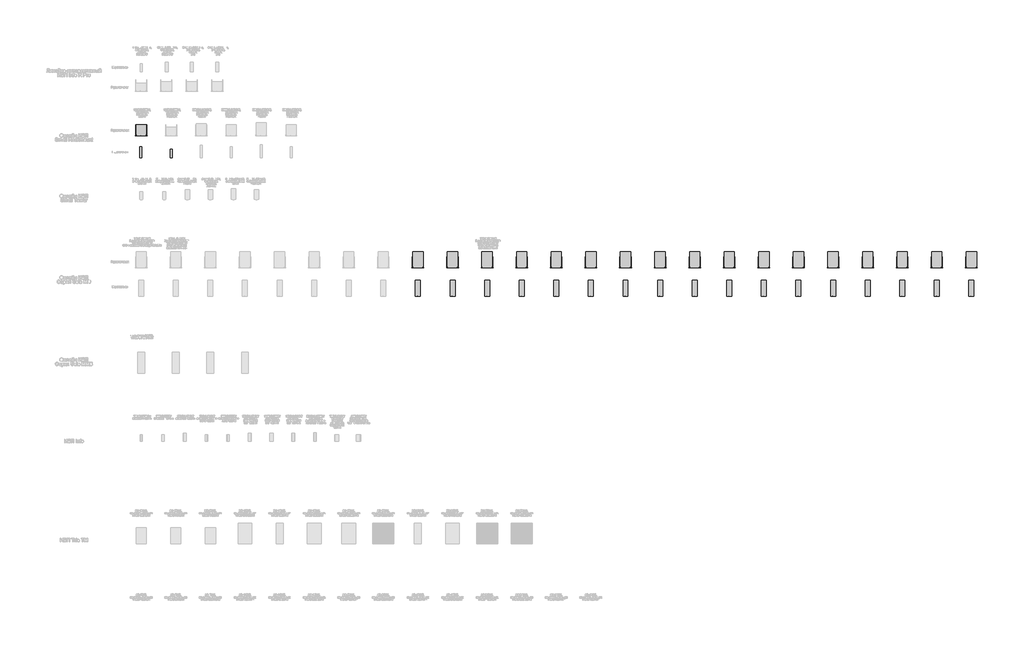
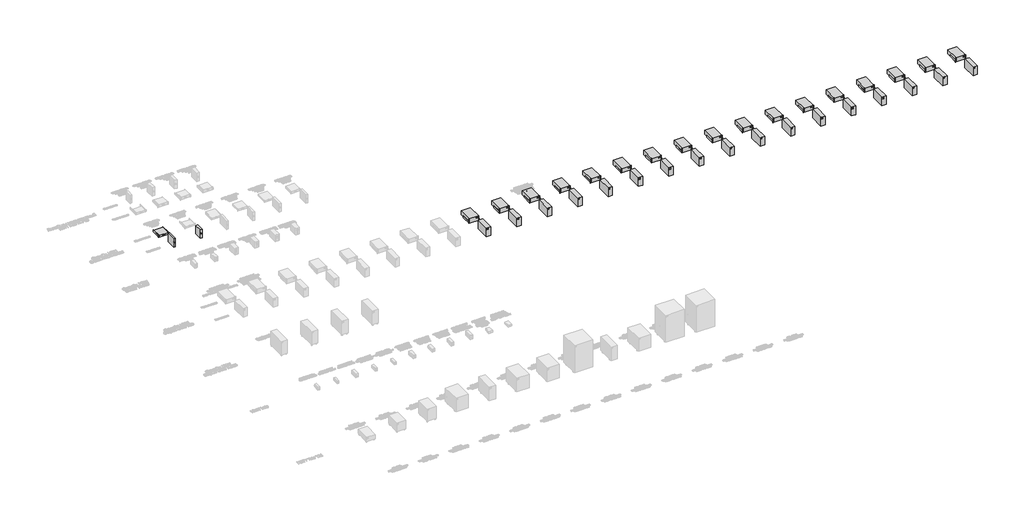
# One storey, part 3 of 74: 139 proxies.
"""IFC4 building model written with IfcOpenShell, lengths in millimetres."""

from ifc_helpers import new_model, si_unit, origin, place, context, project, spatial, transform, mapped, element, save
from components import electrical_equipment_b92da2d6, electrical_equipment_6d2ac0d9, electrical_equipment_2a145548, electrical_equipment_1890145e, electrical_equipment_2c9e7c44, electrical_equipment_71196d91, electrical_equipment_f6df29bd, electrical_equipment_acf2c5a4, as400_464786aa

model = new_model("IFC4")

# Units and contexts
model_context = context("Model", 3, world=origin())
ifc_project = project(units=[si_unit("LENGTHUNIT", "METRE", prefix="MILLI")], contexts=[model_context])

# Site, building, storey
site = spatial("IfcSite", under=ifc_project)
building = spatial("IfcBuilding", under=site)
storey = spatial("IfcBuildingStorey", under=building, Name="Этаж 01", Elevation=0.0)

# Proxies
placement = place(None, origin())
electrical_equipment_shape = electrical_equipment_b92da2d6(model_context)
element("IfcBuildingElementProxy", 1, Name="НВО_КНС_ОнлайнИБПSmallRackmount_DKC : 1000 ВА, без АКБ", ObjectType="НВО_КНС_ОнлайнИБПSmallRackmount_DKC : 1000 ВА, без АКБ", at=placement, inside=storey, context=model_context, shape_type="MappedRepresentation", body=[
    mapped(electrical_equipment_shape, transform((2652.6732678, 224.7189833, 0.0), x_axis=(1.0, 0.0, 0.0), y_axis=(0.0, 1.0, 0.0), z_axis=(0.0, 0.0, 1.0))),
])
electrical_equipment_2_shape = electrical_equipment_6d2ac0d9(model_context)
element("IfcBuildingElementProxy", 2, Name="НВО_КНС_ОнлайнИБПSmallRackmount_DKC : 1000 ВА", ObjectType="НВО_КНС_ОнлайнИБПSmallRackmount_DKC : 1000 ВА", at=placement, inside=storey, context=model_context, shape_type="MappedRepresentation", body=[
    mapped(electrical_equipment_2_shape, transform((1338.8640278, 224.7189833, 0.0), x_axis=(1.0, 0.0, 0.0), y_axis=(0.0, 1.0, 0.0), z_axis=(0.0, 0.0, 1.0))),
])
electrical_equipment_3_shape = electrical_equipment_2a145548(model_context)
element("IfcBuildingElementProxy", 3, Name="НВО_КНС_ОнлайнИБПСерияSoloMD_DKC : Solo MD 10000VA/9100W 20x9Ач", ObjectType="НВО_КНС_ОнлайнИБПСерияSoloMD_DKC : Solo MD 10000VA/9100W 20x9Ач", at=placement, inside=storey, context=model_context, shape_type="MappedRepresentation", body=[
    mapped(electrical_equipment_3_shape, transform((35852.6732678, -4545.8084587, 0.0), x_axis=(1.0, 0.0, 0.0), y_axis=(0.0, 1.0, 0.0), z_axis=(0.0, 0.0, 1.0))),
])
element("IfcBuildingElementProxy", 4, Name="НВО_КНС_ОнлайнИБПСерияSoloMD_DKC : Solo MD 10000VA/9100W 20x7Ач", ObjectType="НВО_КНС_ОнлайнИБПСерияSoloMD_DKC : Solo MD 10000VA/9100W 20x7Ач", at=placement, inside=storey, context=model_context, shape_type="MappedRepresentation", body=[
    mapped(electrical_equipment_3_shape, transform((34352.6732678, -4545.8084587, 0.0), x_axis=(1.0, 0.0, 0.0), y_axis=(0.0, 1.0, 0.0), z_axis=(0.0, 0.0, 1.0))),
])
element("IfcBuildingElementProxy", 5, Name="НВО_КНС_ОнлайнИБПСерияSoloMD_DKC : Solo MD 5000VA/4500W без АКБ", ObjectType="НВО_КНС_ОнлайнИБПСерияSoloMD_DKC : Solo MD 5000VA/4500W без АКБ", at=placement, inside=storey, context=model_context, shape_type="MappedRepresentation", body=[
    mapped(electrical_equipment_3_shape, transform((19352.6732678, -4545.8084587, 0.0), x_axis=(1.0, 0.0, 0.0), y_axis=(0.0, 1.0, 0.0), z_axis=(0.0, 0.0, 1.0))),
])
element("IfcBuildingElementProxy", 6, Name="НВО_КНС_ОнлайнИБПСерияSoloMD_DKC : Solo MD 5000VA/4500W 15x9Ач", ObjectType="НВО_КНС_ОнлайнИБПСерияSoloMD_DKC : Solo MD 5000VA/4500W 15x9Ач", at=placement, inside=storey, context=model_context, shape_type="MappedRepresentation", body=[
    mapped(electrical_equipment_3_shape, transform((17852.6732678, -4545.8084587, 0.0), x_axis=(1.0, 0.0, 0.0), y_axis=(0.0, 1.0, 0.0), z_axis=(0.0, 0.0, 1.0))),
])
element("IfcBuildingElementProxy", 7, Name="НВО_КНС_ОнлайнИБПСерияSoloMD_DKC : Solo MD 5000VA/4500W 2x15x7Ач", ObjectType="НВО_КНС_ОнлайнИБПСерияSoloMD_DKC : Solo MD 5000VA/4500W 2x15x7Ач", at=placement, inside=storey, context=model_context, shape_type="MappedRepresentation", body=[
    mapped(electrical_equipment_3_shape, transform((13352.6732678, -4545.8084587, 0.0), x_axis=(1.0, 0.0, 0.0), y_axis=(0.0, 1.0, 0.0), z_axis=(0.0, 0.0, 1.0))),
])
element("IfcBuildingElementProxy", 8, Name="НВО_КНС_ОнлайнИБПСерияSoloMD_DKC : Solo MD 5000VA/4500W 2x15x9Ач", ObjectType="НВО_КНС_ОнлайнИБПСерияSoloMD_DKC : Solo MD 5000VA/4500W 2x15x9Ач", at=placement, inside=storey, context=model_context, shape_type="MappedRepresentation", body=[
    mapped(electrical_equipment_3_shape, transform((14852.6732678, -4545.8084587, 0.0), x_axis=(1.0, 0.0, 0.0), y_axis=(0.0, 1.0, 0.0), z_axis=(0.0, 0.0, 1.0))),
])
element("IfcBuildingElementProxy", 9, Name="НВО_КНС_ОнлайнИБПСерияSoloMD_DKC : Solo MD 6000VA/5400W без АКБ", ObjectType="НВО_КНС_ОнлайнИБПСерияSoloMD_DKC : Solo MD 6000VA/5400W без АКБ", at=placement, inside=storey, context=model_context, shape_type="MappedRepresentation", body=[
    mapped(electrical_equipment_3_shape, transform((25352.6732678, -4545.8084587, 0.0), x_axis=(1.0, 0.0, 0.0), y_axis=(0.0, 1.0, 0.0), z_axis=(0.0, 0.0, 1.0))),
])
element("IfcBuildingElementProxy", 10, Name="НВО_КНС_ОнлайнИБПСерияSoloMD_DKC : Solo MD 6000VA/5400W 15x9Ач", ObjectType="НВО_КНС_ОнлайнИБПСерияSoloMD_DKC : Solo MD 6000VA/5400W 15x9Ач", at=placement, inside=storey, context=model_context, shape_type="MappedRepresentation", body=[
    mapped(electrical_equipment_3_shape, transform((23852.6732678, -4545.8084587, 0.0), x_axis=(1.0, 0.0, 0.0), y_axis=(0.0, 1.0, 0.0), z_axis=(0.0, 0.0, 1.0))),
])
element("IfcBuildingElementProxy", 11, Name="НВО_КНС_ОнлайнИБПСерияSoloMD_DKC : Solo MD 6000VA/5400W 2x15x7Ач", ObjectType="НВО_КНС_ОнлайнИБПСерияSoloMD_DKC : Solo MD 6000VA/5400W 2x15x7Ач", at=placement, inside=storey, context=model_context, shape_type="MappedRepresentation", body=[
    mapped(electrical_equipment_3_shape, transform((20852.6732678, -4545.8084587, 0.0), x_axis=(1.0, 0.0, 0.0), y_axis=(0.0, 1.0, 0.0), z_axis=(0.0, 0.0, 1.0))),
])
element("IfcBuildingElementProxy", 12, Name="НВО_КНС_ОнлайнИБПСерияSoloMD_DKC : Solo MD 6000VA/5400W 2x15x9Ач", ObjectType="НВО_КНС_ОнлайнИБПСерияSoloMD_DKC : Solo MD 6000VA/5400W 2x15x9Ач", at=placement, inside=storey, context=model_context, shape_type="MappedRepresentation", body=[
    mapped(electrical_equipment_3_shape, transform((22352.6732678, -4545.8084587, 0.0), x_axis=(1.0, 0.0, 0.0), y_axis=(0.0, 1.0, 0.0), z_axis=(0.0, 0.0, 1.0))),
])
element("IfcBuildingElementProxy", 13, Name="НВО_КНС_ОнлайнИБПСерияSoloMD_DKC : Solo MD 7000VA/6300W без АКБ", ObjectType="НВО_КНС_ОнлайнИБПСерияSoloMD_DKC : Solo MD 7000VA/6300W без АКБ", at=placement, inside=storey, context=model_context, shape_type="MappedRepresentation", body=[
    mapped(electrical_equipment_3_shape, transform((32852.6732678, -4545.8084587, 0.0), x_axis=(1.0, 0.0, 0.0), y_axis=(0.0, 1.0, 0.0), z_axis=(0.0, 0.0, 1.0))),
])
element("IfcBuildingElementProxy", 14, Name="НВО_КНС_ОнлайнИБПСерияSoloMD_DKC : Solo MD 7000VA/6300W 20x7Ач", ObjectType="НВО_КНС_ОнлайнИБПСерияSoloMD_DKC : Solo MD 7000VA/6300W 20x7Ач", at=placement, inside=storey, context=model_context, shape_type="MappedRepresentation", body=[
    mapped(electrical_equipment_3_shape, transform((29852.6732678, -4545.8084587, 0.0), x_axis=(1.0, 0.0, 0.0), y_axis=(0.0, 1.0, 0.0), z_axis=(0.0, 0.0, 1.0))),
])
element("IfcBuildingElementProxy", 15, Name="НВО_КНС_ОнлайнИБПСерияSoloMD_DKC : Solo MD 7000VA/6300W 20x9Ач", ObjectType="НВО_КНС_ОнлайнИБПСерияSoloMD_DKC : Solo MD 7000VA/6300W 20x9Ач", at=placement, inside=storey, context=model_context, shape_type="MappedRepresentation", body=[
    mapped(electrical_equipment_3_shape, transform((31352.6732678, -4545.8084587, 0.0), x_axis=(1.0, 0.0, 0.0), y_axis=(0.0, 1.0, 0.0), z_axis=(0.0, 0.0, 1.0))),
])
element("IfcBuildingElementProxy", 16, Name="НВО_КНС_ОнлайнИБПСерияSoloMD_DKC : Solo MD 7000VA/6300W 2x15x7Ач", ObjectType="НВО_КНС_ОнлайнИБПСерияSoloMD_DKC : Solo MD 7000VA/6300W 2x15x7Ач", at=placement, inside=storey, context=model_context, shape_type="MappedRepresentation", body=[
    mapped(electrical_equipment_3_shape, transform((26852.6732678, -4545.8084587, 0.0), x_axis=(1.0, 0.0, 0.0), y_axis=(0.0, 1.0, 0.0), z_axis=(0.0, 0.0, 1.0))),
])
element("IfcBuildingElementProxy", 17, Name="НВО_КНС_ОнлайнИБПСерияSoloMD_DKC : Solo MD 7000VA/6300W 15x7Ач", ObjectType="НВО_КНС_ОнлайнИБПСерияSoloMD_DKC : Solo MD 7000VA/6300W 15x7Ач", at=placement, inside=storey, context=model_context, shape_type="MappedRepresentation", body=[
    mapped(electrical_equipment_3_shape, transform((28352.6732678, -4545.8084587, 0.0), x_axis=(1.0, 0.0, 0.0), y_axis=(0.0, 1.0, 0.0), z_axis=(0.0, 0.0, 1.0))),
])
electrical_equipment_4_shape = electrical_equipment_1890145e(model_context)
element("IfcBuildingElementProxy", 18, Name="НВО_КНС_ОнлайнИБПСерияSoloMD_DKC : Solo MD 12kVA/108kW 20x9Ач", ObjectType="НВО_КНС_ОнлайнИБПСерияSoloMD_DKC : Solo MD 12kVA/108kW 20x9Ач", at=placement, inside=storey, context=model_context, shape_type="MappedRepresentation", body=[
    mapped(electrical_equipment_4_shape, transform((16352.6732678, -5790.8873535, 0.0), x_axis=(1.0, 0.0, 0.0), y_axis=(0.0, 1.0, 0.0), z_axis=(0.0, 0.0, 1.0))),
])
element("IfcBuildingElementProxy", 19, Name="НВО_КНС_ОнлайнИБПСерияSoloMD_DKC : Solo MD 5000VA/4500W 2x15x7Ач", ObjectType="НВО_КНС_ОнлайнИБПСерияSoloMD_DKC : Solo MD 5000VA/4500W 2x15x7Ач", at=placement, inside=storey, context=model_context, shape_type="MappedRepresentation", body=[
    mapped(electrical_equipment_4_shape, transform((13352.6732678, -5790.8873535, 0.0), x_axis=(1.0, 0.0, 0.0), y_axis=(0.0, 1.0, 0.0), z_axis=(0.0, 0.0, 1.0))),
])
element("IfcBuildingElementProxy", 20, Name="НВО_КНС_ОнлайнИБПСерияSoloMD_DKC : Solo MD 5000VA/4500W 2x15x9Ач", ObjectType="НВО_КНС_ОнлайнИБПСерияSoloMD_DKC : Solo MD 5000VA/4500W 2x15x9Ач", at=placement, inside=storey, context=model_context, shape_type="MappedRepresentation", body=[
    mapped(electrical_equipment_4_shape, transform((14852.6732678, -5790.8873535, 0.0), x_axis=(1.0, 0.0, 0.0), y_axis=(0.0, 1.0, 0.0), z_axis=(0.0, 0.0, 1.0))),
])
element("IfcBuildingElementProxy", 21, Name="НВО_КНС_ОнлайнИБПСерияSoloMD_DKC : Solo MD 5000VA/4500W 15x9Ач", ObjectType="НВО_КНС_ОнлайнИБПСерияSoloMD_DKC : Solo MD 5000VA/4500W 15x9Ач", at=placement, inside=storey, context=model_context, shape_type="MappedRepresentation", body=[
    mapped(electrical_equipment_4_shape, transform((17852.6732678, -5790.8873535, 0.0), x_axis=(1.0, 0.0, 0.0), y_axis=(0.0, 1.0, 0.0), z_axis=(0.0, 0.0, 1.0))),
])
element("IfcBuildingElementProxy", 22, Name="НВО_КНС_ОнлайнИБПСерияSoloMD_DKC : Solo MD 5000VA/4500W без АКБ", ObjectType="НВО_КНС_ОнлайнИБПСерияSoloMD_DKC : Solo MD 5000VA/4500W без АКБ", at=placement, inside=storey, context=model_context, shape_type="MappedRepresentation", body=[
    mapped(electrical_equipment_4_shape, transform((19352.6732678, -5790.8873535, 0.0), x_axis=(1.0, 0.0, 0.0), y_axis=(0.0, 1.0, 0.0), z_axis=(0.0, 0.0, 1.0))),
])
element("IfcBuildingElementProxy", 23, Name="НВО_КНС_ОнлайнИБПСерияSoloMD_DKC : Solo MD 6000VA/5400W 2x15x7Ач", ObjectType="НВО_КНС_ОнлайнИБПСерияSoloMD_DKC : Solo MD 6000VA/5400W 2x15x7Ач", at=placement, inside=storey, context=model_context, shape_type="MappedRepresentation", body=[
    mapped(electrical_equipment_4_shape, transform((20852.6732678, -5790.8873535, 0.0), x_axis=(1.0, 0.0, 0.0), y_axis=(0.0, 1.0, 0.0), z_axis=(0.0, 0.0, 1.0))),
])
element("IfcBuildingElementProxy", 24, Name="НВО_КНС_ОнлайнИБПСерияSoloMD_DKC : Solo MD 6000VA/5400W 2x15x9Ач", ObjectType="НВО_КНС_ОнлайнИБПСерияSoloMD_DKC : Solo MD 6000VA/5400W 2x15x9Ач", at=placement, inside=storey, context=model_context, shape_type="MappedRepresentation", body=[
    mapped(electrical_equipment_4_shape, transform((22352.6732678, -5790.8873535, 0.0), x_axis=(1.0, 0.0, 0.0), y_axis=(0.0, 1.0, 0.0), z_axis=(0.0, 0.0, 1.0))),
])
element("IfcBuildingElementProxy", 25, Name="НВО_КНС_ОнлайнИБПСерияSoloMD_DKC : Solo MD 6000VA/5400W 15x9Ач", ObjectType="НВО_КНС_ОнлайнИБПСерияSoloMD_DKC : Solo MD 6000VA/5400W 15x9Ач", at=placement, inside=storey, context=model_context, shape_type="MappedRepresentation", body=[
    mapped(electrical_equipment_4_shape, transform((23852.6732678, -5790.8873535, 0.0), x_axis=(1.0, 0.0, 0.0), y_axis=(0.0, 1.0, 0.0), z_axis=(0.0, 0.0, 1.0))),
])
element("IfcBuildingElementProxy", 26, Name="НВО_КНС_ОнлайнИБПСерияSoloMD_DKC : Solo MD 6000VA/5400W без АКБ", ObjectType="НВО_КНС_ОнлайнИБПСерияSoloMD_DKC : Solo MD 6000VA/5400W без АКБ", at=placement, inside=storey, context=model_context, shape_type="MappedRepresentation", body=[
    mapped(electrical_equipment_4_shape, transform((25352.6732678, -5790.8873535, 0.0), x_axis=(1.0, 0.0, 0.0), y_axis=(0.0, 1.0, 0.0), z_axis=(0.0, 0.0, 1.0))),
])
element("IfcBuildingElementProxy", 27, Name="НВО_КНС_ОнлайнИБПСерияSoloMD_DKC : Solo MD 7000VA/6300W 2x15x7Ач", ObjectType="НВО_КНС_ОнлайнИБПСерияSoloMD_DKC : Solo MD 7000VA/6300W 2x15x7Ач", at=placement, inside=storey, context=model_context, shape_type="MappedRepresentation", body=[
    mapped(electrical_equipment_4_shape, transform((26852.6732678, -5790.8873535, 0.0), x_axis=(1.0, 0.0, 0.0), y_axis=(0.0, 1.0, 0.0), z_axis=(0.0, 0.0, 1.0))),
])
element("IfcBuildingElementProxy", 28, Name="НВО_КНС_ОнлайнИБПСерияSoloMD_DKC : Solo MD 7000VA/6300W 15x7Ач", ObjectType="НВО_КНС_ОнлайнИБПСерияSoloMD_DKC : Solo MD 7000VA/6300W 15x7Ач", at=placement, inside=storey, context=model_context, shape_type="MappedRepresentation", body=[
    mapped(electrical_equipment_4_shape, transform((28352.6732678, -5790.8873535, 0.0), x_axis=(1.0, 0.0, 0.0), y_axis=(0.0, 1.0, 0.0), z_axis=(0.0, 0.0, 1.0))),
])
element("IfcBuildingElementProxy", 29, Name="НВО_КНС_ОнлайнИБПСерияSoloMD_DKC : Solo MD 7000VA/6300W 20x7Ач", ObjectType="НВО_КНС_ОнлайнИБПСерияSoloMD_DKC : Solo MD 7000VA/6300W 20x7Ач", at=placement, inside=storey, context=model_context, shape_type="MappedRepresentation", body=[
    mapped(electrical_equipment_4_shape, transform((29852.6732678, -5790.8873535, 0.0), x_axis=(1.0, 0.0, 0.0), y_axis=(0.0, 1.0, 0.0), z_axis=(0.0, 0.0, 1.0))),
])
element("IfcBuildingElementProxy", 30, Name="НВО_КНС_ОнлайнИБПСерияSoloMD_DKC : Solo MD 7000VA/6300W 20x9Ач", ObjectType="НВО_КНС_ОнлайнИБПСерияSoloMD_DKC : Solo MD 7000VA/6300W 20x9Ач", at=placement, inside=storey, context=model_context, shape_type="MappedRepresentation", body=[
    mapped(electrical_equipment_4_shape, transform((31352.6732678, -5790.8873535, 0.0), x_axis=(1.0, 0.0, 0.0), y_axis=(0.0, 1.0, 0.0), z_axis=(0.0, 0.0, 1.0))),
])
element("IfcBuildingElementProxy", 31, Name="НВО_КНС_ОнлайнИБПСерияSoloMD_DKC : Solo MD 7000VA/6300W без АКБ", ObjectType="НВО_КНС_ОнлайнИБПСерияSoloMD_DKC : Solo MD 7000VA/6300W без АКБ", at=placement, inside=storey, context=model_context, shape_type="MappedRepresentation", body=[
    mapped(electrical_equipment_4_shape, transform((32852.6732678, -5790.8873535, 0.0), x_axis=(1.0, 0.0, 0.0), y_axis=(0.0, 1.0, 0.0), z_axis=(0.0, 0.0, 1.0))),
])
element("IfcBuildingElementProxy", 32, Name="НВО_КНС_ОнлайнИБПСерияSoloMD_DKC : Solo MD 10000VA/9100W 20x7Ач", ObjectType="НВО_КНС_ОнлайнИБПСерияSoloMD_DKC : Solo MD 10000VA/9100W 20x7Ач", at=placement, inside=storey, context=model_context, shape_type="MappedRepresentation", body=[
    mapped(electrical_equipment_4_shape, transform((34352.6732678, -5790.8873535, 0.0), x_axis=(1.0, 0.0, 0.0), y_axis=(0.0, 1.0, 0.0), z_axis=(0.0, 0.0, 1.0))),
])
element("IfcBuildingElementProxy", 33, Name="НВО_КНС_ОнлайнИБПСерияSoloMD_DKC : Solo MD 10000VA/9100W 20x9Ач", ObjectType="НВО_КНС_ОнлайнИБПСерияSoloMD_DKC : Solo MD 10000VA/9100W 20x9Ач", at=placement, inside=storey, context=model_context, shape_type="MappedRepresentation", body=[
    mapped(electrical_equipment_4_shape, transform((35852.6732678, -5790.8873535, 0.0), x_axis=(1.0, 0.0, 0.0), y_axis=(0.0, 1.0, 0.0), z_axis=(0.0, 0.0, 1.0))),
])
element("IfcBuildingElementProxy", 34, Name="НВО_КНС_ОнлайнИБПСерияSoloMD_DKC : Solo MD 10000VA/9100W без АКБ", ObjectType="НВО_КНС_ОнлайнИБПСерияSoloMD_DKC : Solo MD 10000VA/9100W без АКБ", at=placement, inside=storey, context=model_context, shape_type="MappedRepresentation", body=[
    mapped(electrical_equipment_4_shape, transform((37352.6732678, -5790.8873535, 0.0), x_axis=(1.0, 0.0, 0.0), y_axis=(0.0, 1.0, 0.0), z_axis=(0.0, 0.0, 1.0))),
])
electrical_equipment_5_shape = electrical_equipment_2c9e7c44(model_context)
element("IfcBuildingElementProxy", 35, Name="Рельсы для ИБП RAILSMLR : RAILSMLR", ObjectType="Рельсы для ИБП RAILSMLR : RAILSMLR", at=placement, inside=storey, context=model_context, shape_type="MappedRepresentation", body=[
    mapped(electrical_equipment_5_shape, transform((1352.6732678, 1175.1905557, 0.0), x_axis=(1.0, 0.0, 0.0), y_axis=(0.0, 1.0, 0.0), z_axis=(0.0, 0.0, 1.0))),
])
element("IfcBuildingElementProxy", 36, Name="Рельсы для ИБП RAILSMLR : RAILSMLR", ObjectType="Рельсы для ИБП RAILSMLR : RAILSMLR", at=placement, inside=storey, context=model_context, shape_type="MappedRepresentation", body=[
    mapped(electrical_equipment_5_shape, transform((13352.6732678, -4543.8084587, 0.0), x_axis=(1.0, 0.0, 0.0), y_axis=(0.0, 1.0, 0.0), z_axis=(0.0, 0.0, 1.0))),
])
element("IfcBuildingElementProxy", 37, Name="Рельсы для ИБП RAILSMLR : RAILSMLR", ObjectType="Рельсы для ИБП RAILSMLR : RAILSMLR", at=placement, inside=storey, context=model_context, shape_type="MappedRepresentation", body=[
    mapped(electrical_equipment_5_shape, transform((14852.6732678, -4543.8084587, 0.0), x_axis=(1.0, 0.0, 0.0), y_axis=(0.0, 1.0, 0.0), z_axis=(0.0, 0.0, 1.0))),
])
element("IfcBuildingElementProxy", 38, Name="Рельсы для ИБП RAILSMLR : RAILSMLR", ObjectType="Рельсы для ИБП RAILSMLR : RAILSMLR", at=placement, inside=storey, context=model_context, shape_type="MappedRepresentation", body=[
    mapped(electrical_equipment_5_shape, transform((16352.6732678, -4543.8084587, 0.0), x_axis=(1.0, 0.0, 0.0), y_axis=(0.0, 1.0, 0.0), z_axis=(0.0, 0.0, 1.0))),
])
element("IfcBuildingElementProxy", 39, Name="Рельсы для ИБП RAILSMLR : RAILSMLR", ObjectType="Рельсы для ИБП RAILSMLR : RAILSMLR", at=placement, inside=storey, context=model_context, shape_type="MappedRepresentation", body=[
    mapped(electrical_equipment_5_shape, transform((17852.6732678, -4543.8084587, 0.0), x_axis=(1.0, 0.0, 0.0), y_axis=(0.0, 1.0, 0.0), z_axis=(0.0, 0.0, 1.0))),
])
element("IfcBuildingElementProxy", 40, Name="Рельсы для ИБП RAILSMLR : RAILSMLR", ObjectType="Рельсы для ИБП RAILSMLR : RAILSMLR", at=placement, inside=storey, context=model_context, shape_type="MappedRepresentation", body=[
    mapped(electrical_equipment_5_shape, transform((19352.6732678, -4543.8084587, 0.0), x_axis=(1.0, 0.0, 0.0), y_axis=(0.0, 1.0, 0.0), z_axis=(0.0, 0.0, 1.0))),
])
element("IfcBuildingElementProxy", 41, Name="Рельсы для ИБП RAILSMLR : RAILSMLR", ObjectType="Рельсы для ИБП RAILSMLR : RAILSMLR", at=placement, inside=storey, context=model_context, shape_type="MappedRepresentation", body=[
    mapped(electrical_equipment_5_shape, transform((20852.6732678, -4543.8084587, 0.0), x_axis=(1.0, 0.0, 0.0), y_axis=(0.0, 1.0, 0.0), z_axis=(0.0, 0.0, 1.0))),
])
element("IfcBuildingElementProxy", 42, Name="Рельсы для ИБП RAILSMLR : RAILSMLR", ObjectType="Рельсы для ИБП RAILSMLR : RAILSMLR", at=placement, inside=storey, context=model_context, shape_type="MappedRepresentation", body=[
    mapped(electrical_equipment_5_shape, transform((22352.6732678, -4543.8084587, 0.0), x_axis=(1.0, 0.0, 0.0), y_axis=(0.0, 1.0, 0.0), z_axis=(0.0, 0.0, 1.0))),
])
element("IfcBuildingElementProxy", 43, Name="Рельсы для ИБП RAILSMLR : RAILSMLR", ObjectType="Рельсы для ИБП RAILSMLR : RAILSMLR", at=placement, inside=storey, context=model_context, shape_type="MappedRepresentation", body=[
    mapped(electrical_equipment_5_shape, transform((23852.6732678, -4543.8084587, 0.0), x_axis=(1.0, 0.0, 0.0), y_axis=(0.0, 1.0, 0.0), z_axis=(0.0, 0.0, 1.0))),
])
element("IfcBuildingElementProxy", 44, Name="Рельсы для ИБП RAILSMLR : RAILSMLR", ObjectType="Рельсы для ИБП RAILSMLR : RAILSMLR", at=placement, inside=storey, context=model_context, shape_type="MappedRepresentation", body=[
    mapped(electrical_equipment_5_shape, transform((25352.6732678, -4543.8084587, 0.0), x_axis=(1.0, 0.0, 0.0), y_axis=(0.0, 1.0, 0.0), z_axis=(0.0, 0.0, 1.0))),
])
element("IfcBuildingElementProxy", 45, Name="Рельсы для ИБП RAILSMLR : RAILSMLR", ObjectType="Рельсы для ИБП RAILSMLR : RAILSMLR", at=placement, inside=storey, context=model_context, shape_type="MappedRepresentation", body=[
    mapped(electrical_equipment_5_shape, transform((26852.6732678, -4543.8084587, 0.0), x_axis=(1.0, 0.0, 0.0), y_axis=(0.0, 1.0, 0.0), z_axis=(0.0, 0.0, 1.0))),
])
element("IfcBuildingElementProxy", 46, Name="Рельсы для ИБП RAILSMLR : RAILSMLR", ObjectType="Рельсы для ИБП RAILSMLR : RAILSMLR", at=placement, inside=storey, context=model_context, shape_type="MappedRepresentation", body=[
    mapped(electrical_equipment_5_shape, transform((28352.6732678, -4543.8084587, 0.0), x_axis=(1.0, 0.0, 0.0), y_axis=(0.0, 1.0, 0.0), z_axis=(0.0, 0.0, 1.0))),
])
element("IfcBuildingElementProxy", 47, Name="Рельсы для ИБП RAILSMLR : RAILSMLR", ObjectType="Рельсы для ИБП RAILSMLR : RAILSMLR", at=placement, inside=storey, context=model_context, shape_type="MappedRepresentation", body=[
    mapped(electrical_equipment_5_shape, transform((29852.6732678, -4543.8084587, 0.0), x_axis=(1.0, 0.0, 0.0), y_axis=(0.0, 1.0, 0.0), z_axis=(0.0, 0.0, 1.0))),
])
element("IfcBuildingElementProxy", 48, Name="Рельсы для ИБП RAILSMLR : RAILSMLR", ObjectType="Рельсы для ИБП RAILSMLR : RAILSMLR", at=placement, inside=storey, context=model_context, shape_type="MappedRepresentation", body=[
    mapped(electrical_equipment_5_shape, transform((31352.6732678, -4543.8084587, 0.0), x_axis=(1.0, 0.0, 0.0), y_axis=(0.0, 1.0, 0.0), z_axis=(0.0, 0.0, 1.0))),
])
element("IfcBuildingElementProxy", 49, Name="Рельсы для ИБП RAILSMLR : RAILSMLR", ObjectType="Рельсы для ИБП RAILSMLR : RAILSMLR", at=placement, inside=storey, context=model_context, shape_type="MappedRepresentation", body=[
    mapped(electrical_equipment_5_shape, transform((32852.6732678, -4543.8084587, 0.0), x_axis=(1.0, 0.0, 0.0), y_axis=(0.0, 1.0, 0.0), z_axis=(0.0, 0.0, 1.0))),
])
element("IfcBuildingElementProxy", 50, Name="Рельсы для ИБП RAILSMLR : RAILSMLR", ObjectType="Рельсы для ИБП RAILSMLR : RAILSMLR", at=placement, inside=storey, context=model_context, shape_type="MappedRepresentation", body=[
    mapped(electrical_equipment_5_shape, transform((34352.6732678, -4543.8084587, 0.0), x_axis=(1.0, 0.0, 0.0), y_axis=(0.0, 1.0, 0.0), z_axis=(0.0, 0.0, 1.0))),
])
element("IfcBuildingElementProxy", 51, Name="Рельсы для ИБП RAILSMLR : RAILSMLR", ObjectType="Рельсы для ИБП RAILSMLR : RAILSMLR", at=placement, inside=storey, context=model_context, shape_type="MappedRepresentation", body=[
    mapped(electrical_equipment_5_shape, transform((35852.6732678, -4543.8084587, 0.0), x_axis=(1.0, 0.0, 0.0), y_axis=(0.0, 1.0, 0.0), z_axis=(0.0, 0.0, 1.0))),
])
element("IfcBuildingElementProxy", 52, Name="Рельсы для ИБП RAILSMLR : RAILSMLR", ObjectType="Рельсы для ИБП RAILSMLR : RAILSMLR", at=placement, inside=storey, context=model_context, shape_type="MappedRepresentation", body=[
    mapped(electrical_equipment_5_shape, transform((37352.6732678, -4543.8084587, 0.0), x_axis=(1.0, 0.0, 0.0), y_axis=(0.0, 1.0, 0.0), z_axis=(0.0, 0.0, 1.0))),
])
electrical_equipment_6_shape = electrical_equipment_71196d91(model_context)
element("IfcBuildingElementProxy", 53, Name="Внешний переключатель байпаса MBSSMLR : MBSSMLR", ObjectType="Внешний переключатель байпаса MBSSMLR : MBSSMLR", at=placement, inside=storey, context=model_context, shape_type="MappedRepresentation", body=[
    mapped(electrical_equipment_6_shape, transform((1352.6732678, 1641.1905557, 0.0), x_axis=(1.0, 0.0, 0.0), y_axis=(0.0, 1.0, 0.0), z_axis=(0.0, 0.0, 1.0))),
])
element("IfcBuildingElementProxy", 54, Name="Внешний переключатель байпаса MBSSMLR : MBSSMLR", ObjectType="Внешний переключатель байпаса MBSSMLR : MBSSMLR", at=placement, inside=storey, context=model_context, shape_type="MappedRepresentation", body=[
    mapped(electrical_equipment_6_shape, transform((1338.8640278, 692.7189833, 0.0), x_axis=(1.0, 0.0, 0.0), y_axis=(0.0, 1.0, 0.0), z_axis=(0.0, 0.0, 1.0))),
])
electrical_equipment_7_shape = electrical_equipment_f6df29bd(model_context)
element("IfcBuildingElementProxy", 55, Name="Адаптер SNMPSM2 : SNMPSM2", ObjectType="Адаптер SNMPSM2 : SNMPSM2", at=placement, inside=storey, context=model_context, shape_type="MappedRepresentation", body=[
    mapped(electrical_equipment_7_shape, transform((1352.6732678, 1641.1905557, 0.0), x_axis=(1.0, 0.0, 0.0), y_axis=(0.0, 1.0, 0.0), z_axis=(0.0, 0.0, 1.0))),
])
element("IfcBuildingElementProxy", 56, Name="Адаптер SNMPSM2 : SNMPSM2", ObjectType="Адаптер SNMPSM2 : SNMPSM2", at=placement, inside=storey, context=model_context, shape_type="MappedRepresentation", body=[
    mapped(electrical_equipment_7_shape, transform((1338.8640278, 692.7189833, 0.0), x_axis=(1.0, 0.0, 0.0), y_axis=(0.0, 1.0, 0.0), z_axis=(0.0, 0.0, 1.0))),
])
electrical_equipment_8_shape = electrical_equipment_acf2c5a4(model_context)
element("IfcBuildingElementProxy", 57, Name="НВО_КНС_ОнлайнИБПSmallRackmount_DKC : 1000 ВА", ObjectType="НВО_КНС_ОнлайнИБПSmallRackmount_DKC : 1000 ВА", at=placement, inside=storey, context=model_context, shape_type="MappedRepresentation", body=[
    mapped(electrical_equipment_8_shape, transform((1352.6732678, 1173.1905557, 0.0), x_axis=(1.0, 0.0, 0.0), y_axis=(0.0, 1.0, 0.0), z_axis=(0.0, 0.0, 1.0))),
])
element("IfcBuildingElementProxy", 58, Name="Адаптер SNMPSM2 : SNMPMMD", ObjectType="Адаптер SNMPSM2 : SNMPMMD", at=placement, inside=storey, context=model_context, shape_type="MappedRepresentation", body=[
    mapped(electrical_equipment_7_shape, transform((8852.6732678, -3845.8084587, 0.0), x_axis=(1.0, 0.0, 0.0), y_axis=(0.0, 1.0, 0.0), z_axis=(0.0, 0.0, 1.0))),
])
element("IfcBuildingElementProxy", 59, Name="Адаптер SNMPSM2 : SNMPMMD", ObjectType="Адаптер SNMPSM2 : SNMPMMD", at=placement, inside=storey, context=model_context, shape_type="MappedRepresentation", body=[
    mapped(electrical_equipment_7_shape, transform((10352.6732678, -3845.8084587, 0.0), x_axis=(1.0, 0.0, 0.0), y_axis=(0.0, 1.0, 0.0), z_axis=(0.0, 0.0, 1.0))),
])
element("IfcBuildingElementProxy", 60, Name="Адаптер SNMPSM2 : SNMPMMD", ObjectType="Адаптер SNMPSM2 : SNMPMMD", at=placement, inside=storey, context=model_context, shape_type="MappedRepresentation", body=[
    mapped(electrical_equipment_7_shape, transform((11852.6732678, -3845.8084587, 0.0), x_axis=(1.0, 0.0, 0.0), y_axis=(0.0, 1.0, 0.0), z_axis=(0.0, 0.0, 1.0))),
])
element("IfcBuildingElementProxy", 61, Name="Адаптер SNMPSM2 : SNMPMMD", ObjectType="Адаптер SNMPSM2 : SNMPMMD", at=placement, inside=storey, context=model_context, shape_type="MappedRepresentation", body=[
    mapped(electrical_equipment_7_shape, transform((13352.6732678, -3845.8084587, 0.0), x_axis=(1.0, 0.0, 0.0), y_axis=(0.0, 1.0, 0.0), z_axis=(0.0, 0.0, 1.0))),
])
element("IfcBuildingElementProxy", 62, Name="Адаптер SNMPSM2 : SNMPMMD", ObjectType="Адаптер SNMPSM2 : SNMPMMD", at=placement, inside=storey, context=model_context, shape_type="MappedRepresentation", body=[
    mapped(electrical_equipment_7_shape, transform((13352.6732678, -5090.8873535, 0.0), x_axis=(1.0, 0.0, 0.0), y_axis=(0.0, 1.0, 0.0), z_axis=(0.0, 0.0, 1.0))),
])
element("IfcBuildingElementProxy", 63, Name="Адаптер SNMPSM2 : SNMPMMD", ObjectType="Адаптер SNMPSM2 : SNMPMMD", at=placement, inside=storey, context=model_context, shape_type="MappedRepresentation", body=[
    mapped(electrical_equipment_7_shape, transform((14852.6732678, -3845.8084587, 0.0), x_axis=(1.0, 0.0, 0.0), y_axis=(0.0, 1.0, 0.0), z_axis=(0.0, 0.0, 1.0))),
])
element("IfcBuildingElementProxy", 64, Name="Адаптер SNMPSM2 : SNMPMMD", ObjectType="Адаптер SNMPSM2 : SNMPMMD", at=placement, inside=storey, context=model_context, shape_type="MappedRepresentation", body=[
    mapped(electrical_equipment_7_shape, transform((14852.6732678, -5090.8873535, 0.0), x_axis=(1.0, 0.0, 0.0), y_axis=(0.0, 1.0, 0.0), z_axis=(0.0, 0.0, 1.0))),
])
element("IfcBuildingElementProxy", 65, Name="Адаптер SNMPSM2 : SNMPMMD", ObjectType="Адаптер SNMPSM2 : SNMPMMD", at=placement, inside=storey, context=model_context, shape_type="MappedRepresentation", body=[
    mapped(electrical_equipment_7_shape, transform((16352.6732678, -3845.8084587, 0.0), x_axis=(1.0, 0.0, 0.0), y_axis=(0.0, 1.0, 0.0), z_axis=(0.0, 0.0, 1.0))),
])
element("IfcBuildingElementProxy", 66, Name="Адаптер SNMPSM2 : SNMPMMD", ObjectType="Адаптер SNMPSM2 : SNMPMMD", at=placement, inside=storey, context=model_context, shape_type="MappedRepresentation", body=[
    mapped(electrical_equipment_7_shape, transform((16352.6732678, -5090.8873535, 0.0), x_axis=(1.0, 0.0, 0.0), y_axis=(0.0, 1.0, 0.0), z_axis=(0.0, 0.0, 1.0))),
])
element("IfcBuildingElementProxy", 67, Name="Адаптер SNMPSM2 : SNMPMMD", ObjectType="Адаптер SNMPSM2 : SNMPMMD", at=placement, inside=storey, context=model_context, shape_type="MappedRepresentation", body=[
    mapped(electrical_equipment_7_shape, transform((17852.6732678, -3845.8084587, 0.0), x_axis=(1.0, 0.0, 0.0), y_axis=(0.0, 1.0, 0.0), z_axis=(0.0, 0.0, 1.0))),
])
element("IfcBuildingElementProxy", 68, Name="Адаптер SNMPSM2 : SNMPMMD", ObjectType="Адаптер SNMPSM2 : SNMPMMD", at=placement, inside=storey, context=model_context, shape_type="MappedRepresentation", body=[
    mapped(electrical_equipment_7_shape, transform((17852.6732678, -5090.8873535, 0.0), x_axis=(1.0, 0.0, 0.0), y_axis=(0.0, 1.0, 0.0), z_axis=(0.0, 0.0, 1.0))),
])
element("IfcBuildingElementProxy", 69, Name="Адаптер SNMPSM2 : SNMPMMD", ObjectType="Адаптер SNMPSM2 : SNMPMMD", at=placement, inside=storey, context=model_context, shape_type="MappedRepresentation", body=[
    mapped(electrical_equipment_7_shape, transform((19352.6732678, -3845.8084587, 0.0), x_axis=(1.0, 0.0, 0.0), y_axis=(0.0, 1.0, 0.0), z_axis=(0.0, 0.0, 1.0))),
])
element("IfcBuildingElementProxy", 70, Name="Адаптер SNMPSM2 : SNMPMMD", ObjectType="Адаптер SNMPSM2 : SNMPMMD", at=placement, inside=storey, context=model_context, shape_type="MappedRepresentation", body=[
    mapped(electrical_equipment_7_shape, transform((19352.6732678, -5090.8873535, 0.0), x_axis=(1.0, 0.0, 0.0), y_axis=(0.0, 1.0, 0.0), z_axis=(0.0, 0.0, 1.0))),
])
element("IfcBuildingElementProxy", 71, Name="Адаптер SNMPSM2 : SNMPMMD", ObjectType="Адаптер SNMPSM2 : SNMPMMD", at=placement, inside=storey, context=model_context, shape_type="MappedRepresentation", body=[
    mapped(electrical_equipment_7_shape, transform((20852.6732678, -3845.8084587, 0.0), x_axis=(1.0, 0.0, 0.0), y_axis=(0.0, 1.0, 0.0), z_axis=(0.0, 0.0, 1.0))),
])
element("IfcBuildingElementProxy", 72, Name="Адаптер SNMPSM2 : SNMPMMD", ObjectType="Адаптер SNMPSM2 : SNMPMMD", at=placement, inside=storey, context=model_context, shape_type="MappedRepresentation", body=[
    mapped(electrical_equipment_7_shape, transform((20852.6732678, -5090.8873535, 0.0), x_axis=(1.0, 0.0, 0.0), y_axis=(0.0, 1.0, 0.0), z_axis=(0.0, 0.0, 1.0))),
])
element("IfcBuildingElementProxy", 73, Name="Адаптер SNMPSM2 : SNMPMMD", ObjectType="Адаптер SNMPSM2 : SNMPMMD", at=placement, inside=storey, context=model_context, shape_type="MappedRepresentation", body=[
    mapped(electrical_equipment_7_shape, transform((22352.6732678, -3845.8084587, 0.0), x_axis=(1.0, 0.0, 0.0), y_axis=(0.0, 1.0, 0.0), z_axis=(0.0, 0.0, 1.0))),
])
element("IfcBuildingElementProxy", 74, Name="Адаптер SNMPSM2 : SNMPMMD", ObjectType="Адаптер SNMPSM2 : SNMPMMD", at=placement, inside=storey, context=model_context, shape_type="MappedRepresentation", body=[
    mapped(electrical_equipment_7_shape, transform((22352.6732678, -5090.8873535, 0.0), x_axis=(1.0, 0.0, 0.0), y_axis=(0.0, 1.0, 0.0), z_axis=(0.0, 0.0, 1.0))),
])
element("IfcBuildingElementProxy", 75, Name="Адаптер SNMPSM2 : SNMPMMD", ObjectType="Адаптер SNMPSM2 : SNMPMMD", at=placement, inside=storey, context=model_context, shape_type="MappedRepresentation", body=[
    mapped(electrical_equipment_7_shape, transform((23852.6732678, -3845.8084587, 0.0), x_axis=(1.0, 0.0, 0.0), y_axis=(0.0, 1.0, 0.0), z_axis=(0.0, 0.0, 1.0))),
])
element("IfcBuildingElementProxy", 76, Name="Адаптер SNMPSM2 : SNMPMMD", ObjectType="Адаптер SNMPSM2 : SNMPMMD", at=placement, inside=storey, context=model_context, shape_type="MappedRepresentation", body=[
    mapped(electrical_equipment_7_shape, transform((23852.6732678, -5090.8873535, 0.0), x_axis=(1.0, 0.0, 0.0), y_axis=(0.0, 1.0, 0.0), z_axis=(0.0, 0.0, 1.0))),
])
element("IfcBuildingElementProxy", 77, Name="Адаптер SNMPSM2 : SNMPMMD", ObjectType="Адаптер SNMPSM2 : SNMPMMD", at=placement, inside=storey, context=model_context, shape_type="MappedRepresentation", body=[
    mapped(electrical_equipment_7_shape, transform((25352.6732678, -3845.8084587, 0.0), x_axis=(1.0, 0.0, 0.0), y_axis=(0.0, 1.0, 0.0), z_axis=(0.0, 0.0, 1.0))),
])
element("IfcBuildingElementProxy", 78, Name="Адаптер SNMPSM2 : SNMPMMD", ObjectType="Адаптер SNMPSM2 : SNMPMMD", at=placement, inside=storey, context=model_context, shape_type="MappedRepresentation", body=[
    mapped(electrical_equipment_7_shape, transform((25352.6732678, -5090.8873535, 0.0), x_axis=(1.0, 0.0, 0.0), y_axis=(0.0, 1.0, 0.0), z_axis=(0.0, 0.0, 1.0))),
])
element("IfcBuildingElementProxy", 79, Name="Адаптер SNMPSM2 : SNMPMMD", ObjectType="Адаптер SNMPSM2 : SNMPMMD", at=placement, inside=storey, context=model_context, shape_type="MappedRepresentation", body=[
    mapped(electrical_equipment_7_shape, transform((26852.6732678, -3845.8084587, 0.0), x_axis=(1.0, 0.0, 0.0), y_axis=(0.0, 1.0, 0.0), z_axis=(0.0, 0.0, 1.0))),
])
element("IfcBuildingElementProxy", 80, Name="Адаптер SNMPSM2 : SNMPMMD", ObjectType="Адаптер SNMPSM2 : SNMPMMD", at=placement, inside=storey, context=model_context, shape_type="MappedRepresentation", body=[
    mapped(electrical_equipment_7_shape, transform((26852.6732678, -5090.8873535, 0.0), x_axis=(1.0, 0.0, 0.0), y_axis=(0.0, 1.0, 0.0), z_axis=(0.0, 0.0, 1.0))),
])
element("IfcBuildingElementProxy", 81, Name="Адаптер SNMPSM2 : SNMPMMD", ObjectType="Адаптер SNMPSM2 : SNMPMMD", at=placement, inside=storey, context=model_context, shape_type="MappedRepresentation", body=[
    mapped(electrical_equipment_7_shape, transform((28352.6732678, -3845.8084587, 0.0), x_axis=(1.0, 0.0, 0.0), y_axis=(0.0, 1.0, 0.0), z_axis=(0.0, 0.0, 1.0))),
])
element("IfcBuildingElementProxy", 82, Name="Адаптер SNMPSM2 : SNMPMMD", ObjectType="Адаптер SNMPSM2 : SNMPMMD", at=placement, inside=storey, context=model_context, shape_type="MappedRepresentation", body=[
    mapped(electrical_equipment_7_shape, transform((28352.6732678, -5090.8873535, 0.0), x_axis=(1.0, 0.0, 0.0), y_axis=(0.0, 1.0, 0.0), z_axis=(0.0, 0.0, 1.0))),
])
element("IfcBuildingElementProxy", 83, Name="Адаптер SNMPSM2 : SNMPMMD", ObjectType="Адаптер SNMPSM2 : SNMPMMD", at=placement, inside=storey, context=model_context, shape_type="MappedRepresentation", body=[
    mapped(electrical_equipment_7_shape, transform((29852.6732678, -3845.8084587, 0.0), x_axis=(1.0, 0.0, 0.0), y_axis=(0.0, 1.0, 0.0), z_axis=(0.0, 0.0, 1.0))),
])
element("IfcBuildingElementProxy", 84, Name="Адаптер SNMPSM2 : SNMPMMD", ObjectType="Адаптер SNMPSM2 : SNMPMMD", at=placement, inside=storey, context=model_context, shape_type="MappedRepresentation", body=[
    mapped(electrical_equipment_7_shape, transform((29852.6732678, -5090.8873535, 0.0), x_axis=(1.0, 0.0, 0.0), y_axis=(0.0, 1.0, 0.0), z_axis=(0.0, 0.0, 1.0))),
])
element("IfcBuildingElementProxy", 85, Name="Адаптер SNMPSM2 : SNMPMMD", ObjectType="Адаптер SNMPSM2 : SNMPMMD", at=placement, inside=storey, context=model_context, shape_type="MappedRepresentation", body=[
    mapped(electrical_equipment_7_shape, transform((31352.6732678, -3845.8084587, 0.0), x_axis=(1.0, 0.0, 0.0), y_axis=(0.0, 1.0, 0.0), z_axis=(0.0, 0.0, 1.0))),
])
element("IfcBuildingElementProxy", 86, Name="Адаптер SNMPSM2 : SNMPMMD", ObjectType="Адаптер SNMPSM2 : SNMPMMD", at=placement, inside=storey, context=model_context, shape_type="MappedRepresentation", body=[
    mapped(electrical_equipment_7_shape, transform((31352.6732678, -5090.8873535, 0.0), x_axis=(1.0, 0.0, 0.0), y_axis=(0.0, 1.0, 0.0), z_axis=(0.0, 0.0, 1.0))),
])
element("IfcBuildingElementProxy", 87, Name="Адаптер SNMPSM2 : SNMPMMD", ObjectType="Адаптер SNMPSM2 : SNMPMMD", at=placement, inside=storey, context=model_context, shape_type="MappedRepresentation", body=[
    mapped(electrical_equipment_7_shape, transform((32852.6732678, -3845.8084587, 0.0), x_axis=(1.0, 0.0, 0.0), y_axis=(0.0, 1.0, 0.0), z_axis=(0.0, 0.0, 1.0))),
])
element("IfcBuildingElementProxy", 88, Name="Адаптер SNMPSM2 : SNMPMMD", ObjectType="Адаптер SNMPSM2 : SNMPMMD", at=placement, inside=storey, context=model_context, shape_type="MappedRepresentation", body=[
    mapped(electrical_equipment_7_shape, transform((32852.6732678, -5090.8873535, 0.0), x_axis=(1.0, 0.0, 0.0), y_axis=(0.0, 1.0, 0.0), z_axis=(0.0, 0.0, 1.0))),
])
element("IfcBuildingElementProxy", 89, Name="Адаптер SNMPSM2 : SNMPMMD", ObjectType="Адаптер SNMPSM2 : SNMPMMD", at=placement, inside=storey, context=model_context, shape_type="MappedRepresentation", body=[
    mapped(electrical_equipment_7_shape, transform((34352.6732678, -3845.8084587, 0.0), x_axis=(1.0, 0.0, 0.0), y_axis=(0.0, 1.0, 0.0), z_axis=(0.0, 0.0, 1.0))),
])
element("IfcBuildingElementProxy", 90, Name="Адаптер SNMPSM2 : SNMPMMD", ObjectType="Адаптер SNMPSM2 : SNMPMMD", at=placement, inside=storey, context=model_context, shape_type="MappedRepresentation", body=[
    mapped(electrical_equipment_7_shape, transform((34352.6732678, -5090.8873535, 0.0), x_axis=(1.0, 0.0, 0.0), y_axis=(0.0, 1.0, 0.0), z_axis=(0.0, 0.0, 1.0))),
])
element("IfcBuildingElementProxy", 91, Name="Адаптер SNMPSM2 : SNMPMMD", ObjectType="Адаптер SNMPSM2 : SNMPMMD", at=placement, inside=storey, context=model_context, shape_type="MappedRepresentation", body=[
    mapped(electrical_equipment_7_shape, transform((35852.6732678, -3845.8084587, 0.0), x_axis=(1.0, 0.0, 0.0), y_axis=(0.0, 1.0, 0.0), z_axis=(0.0, 0.0, 1.0))),
])
element("IfcBuildingElementProxy", 92, Name="Адаптер SNMPSM2 : SNMPMMD", ObjectType="Адаптер SNMPSM2 : SNMPMMD", at=placement, inside=storey, context=model_context, shape_type="MappedRepresentation", body=[
    mapped(electrical_equipment_7_shape, transform((35852.6732678, -5090.8873535, 0.0), x_axis=(1.0, 0.0, 0.0), y_axis=(0.0, 1.0, 0.0), z_axis=(0.0, 0.0, 1.0))),
])
element("IfcBuildingElementProxy", 93, Name="Адаптер SNMPSM2 : SNMPMMD", ObjectType="Адаптер SNMPSM2 : SNMPMMD", at=placement, inside=storey, context=model_context, shape_type="MappedRepresentation", body=[
    mapped(electrical_equipment_7_shape, transform((37352.6732678, -3845.8084587, 0.0), x_axis=(1.0, 0.0, 0.0), y_axis=(0.0, 1.0, 0.0), z_axis=(0.0, 0.0, 1.0))),
])
element("IfcBuildingElementProxy", 94, Name="Адаптер SNMPSM2 : SNMPMMD", ObjectType="Адаптер SNMPSM2 : SNMPMMD", at=placement, inside=storey, context=model_context, shape_type="MappedRepresentation", body=[
    mapped(electrical_equipment_7_shape, transform((37352.6732678, -5090.8873535, 0.0), x_axis=(1.0, 0.0, 0.0), y_axis=(0.0, 1.0, 0.0), z_axis=(0.0, 0.0, 1.0))),
])
element("IfcBuildingElementProxy", 95, Name="Адаптер SNMPSM2 : SNMPMMD", ObjectType="Адаптер SNMPSM2 : SNMPMMD", at=placement, inside=storey, context=model_context, shape_type="MappedRepresentation", body=[
    mapped(electrical_equipment_7_shape, transform((16352.6732678, -15619.0619239, 70.0), x_axis=(1.0, 0.0, 0.0), y_axis=(0.0, 1.0, 0.0), z_axis=(0.0, 0.0, 1.0))),
])
element("IfcBuildingElementProxy", 96, Name="Адаптер SNMPSM2 : SNMPMMD", ObjectType="Адаптер SNMPSM2 : SNMPMMD", at=placement, inside=storey, context=model_context, shape_type="MappedRepresentation", body=[
    mapped(electrical_equipment_7_shape, transform((17852.6732678, -15619.0619239, 70.0), x_axis=(1.0, 0.0, 0.0), y_axis=(0.0, 1.0, 0.0), z_axis=(0.0, 0.0, 1.0))),
])
element("IfcBuildingElementProxy", 97, Name="НВО_КНС_ОнлайнИБПСерияSoloMD_DKC : Solo MD 10000VA/9100W без АКБ", ObjectType="НВО_КНС_ОнлайнИБПСерияSoloMD_DKC : Solo MD 10000VA/9100W без АКБ", at=placement, inside=storey, context=model_context, shape_type="MappedRepresentation", body=[
    mapped(electrical_equipment_3_shape, transform((37352.6732678, -4545.8084587, 0.0), x_axis=(1.0, 0.0, 0.0), y_axis=(0.0, 1.0, 0.0), z_axis=(0.0, 0.0, 1.0))),
])
element("IfcBuildingElementProxy", 98, Name="НВО_КНС_ОнлайнИБПСерияSoloMD_DKC : Solo MD 12kVA/108kW 20x9Ач", ObjectType="НВО_КНС_ОнлайнИБПСерияSoloMD_DKC : Solo MD 12kVA/108kW 20x9Ач", at=placement, inside=storey, context=model_context, shape_type="MappedRepresentation", body=[
    mapped(electrical_equipment_3_shape, transform((16352.6732678, -4545.8084587, 0.0), x_axis=(1.0, 0.0, 0.0), y_axis=(0.0, 1.0, 0.0), z_axis=(0.0, 0.0, 1.0))),
])
as400_shape = as400_464786aa(model_context)
element("IfcBuildingElementProxy", 99, Name="Адаптер AS400 : AS400", ObjectType="Адаптер AS400 : AS400", at=placement, inside=storey, context=model_context, shape_type="MappedRepresentation", body=[
    mapped(as400_shape, transform((1352.6732678, 1641.1905557, 0.0), x_axis=(1.0, 0.0, 0.0), y_axis=(0.0, 1.0, 0.0), z_axis=(0.0, 0.0, 1.0))),
])
element("IfcBuildingElementProxy", 100, Name="Адаптер AS400 : AS400", ObjectType="Адаптер AS400 : AS400", at=placement, inside=storey, context=model_context, shape_type="MappedRepresentation", body=[
    mapped(as400_shape, transform((1338.8640278, 692.7189833, 0.0), x_axis=(1.0, 0.0, 0.0), y_axis=(0.0, 1.0, 0.0), z_axis=(0.0, 0.0, 1.0))),
])
element("IfcBuildingElementProxy", 101, Name="Адаптер AS400 : AS400MMD", ObjectType="Адаптер AS400 : AS400MMD", at=placement, inside=storey, context=model_context, shape_type="MappedRepresentation", body=[
    mapped(as400_shape, transform((8852.6732678, -3845.8084587, 0.0), x_axis=(1.0, 0.0, 0.0), y_axis=(0.0, 1.0, 0.0), z_axis=(0.0, 0.0, 1.0))),
])
element("IfcBuildingElementProxy", 102, Name="Адаптер AS400 : AS400MMD", ObjectType="Адаптер AS400 : AS400MMD", at=placement, inside=storey, context=model_context, shape_type="MappedRepresentation", body=[
    mapped(as400_shape, transform((10352.6732678, -3845.8084587, 0.0), x_axis=(1.0, 0.0, 0.0), y_axis=(0.0, 1.0, 0.0), z_axis=(0.0, 0.0, 1.0))),
])
element("IfcBuildingElementProxy", 103, Name="Адаптер AS400 : AS400MMD", ObjectType="Адаптер AS400 : AS400MMD", at=placement, inside=storey, context=model_context, shape_type="MappedRepresentation", body=[
    mapped(as400_shape, transform((11852.6732678, -3845.8084587, 0.0), x_axis=(1.0, 0.0, 0.0), y_axis=(0.0, 1.0, 0.0), z_axis=(0.0, 0.0, 1.0))),
])
element("IfcBuildingElementProxy", 104, Name="Адаптер AS400 : AS400MMD", ObjectType="Адаптер AS400 : AS400MMD", at=placement, inside=storey, context=model_context, shape_type="MappedRepresentation", body=[
    mapped(as400_shape, transform((13352.6732678, -3845.8084587, 0.0), x_axis=(1.0, 0.0, 0.0), y_axis=(0.0, 1.0, 0.0), z_axis=(0.0, 0.0, 1.0))),
])
element("IfcBuildingElementProxy", 105, Name="Адаптер AS400 : AS400MMD", ObjectType="Адаптер AS400 : AS400MMD", at=placement, inside=storey, context=model_context, shape_type="MappedRepresentation", body=[
    mapped(as400_shape, transform((13352.6732678, -5090.8873535, 0.0), x_axis=(1.0, 0.0, 0.0), y_axis=(0.0, 1.0, 0.0), z_axis=(0.0, 0.0, 1.0))),
])
element("IfcBuildingElementProxy", 106, Name="Адаптер AS400 : AS400MMD", ObjectType="Адаптер AS400 : AS400MMD", at=placement, inside=storey, context=model_context, shape_type="MappedRepresentation", body=[
    mapped(as400_shape, transform((14852.6732678, -3845.8084587, 0.0), x_axis=(1.0, 0.0, 0.0), y_axis=(0.0, 1.0, 0.0), z_axis=(0.0, 0.0, 1.0))),
])
element("IfcBuildingElementProxy", 107, Name="Адаптер AS400 : AS400MMD", ObjectType="Адаптер AS400 : AS400MMD", at=placement, inside=storey, context=model_context, shape_type="MappedRepresentation", body=[
    mapped(as400_shape, transform((14852.6732678, -5090.8873535, 0.0), x_axis=(1.0, 0.0, 0.0), y_axis=(0.0, 1.0, 0.0), z_axis=(0.0, 0.0, 1.0))),
])
element("IfcBuildingElementProxy", 108, Name="Адаптер AS400 : AS400MMD", ObjectType="Адаптер AS400 : AS400MMD", at=placement, inside=storey, context=model_context, shape_type="MappedRepresentation", body=[
    mapped(as400_shape, transform((16352.6732678, -3845.8084587, 0.0), x_axis=(1.0, 0.0, 0.0), y_axis=(0.0, 1.0, 0.0), z_axis=(0.0, 0.0, 1.0))),
])
element("IfcBuildingElementProxy", 109, Name="Адаптер AS400 : AS400MMD", ObjectType="Адаптер AS400 : AS400MMD", at=placement, inside=storey, context=model_context, shape_type="MappedRepresentation", body=[
    mapped(as400_shape, transform((16352.6732678, -5090.8873535, 0.0), x_axis=(1.0, 0.0, 0.0), y_axis=(0.0, 1.0, 0.0), z_axis=(0.0, 0.0, 1.0))),
])
element("IfcBuildingElementProxy", 110, Name="Адаптер AS400 : AS400MMD", ObjectType="Адаптер AS400 : AS400MMD", at=placement, inside=storey, context=model_context, shape_type="MappedRepresentation", body=[
    mapped(as400_shape, transform((17852.6732678, -3845.8084587, 0.0), x_axis=(1.0, 0.0, 0.0), y_axis=(0.0, 1.0, 0.0), z_axis=(0.0, 0.0, 1.0))),
])
element("IfcBuildingElementProxy", 111, Name="Адаптер AS400 : AS400MMD", ObjectType="Адаптер AS400 : AS400MMD", at=placement, inside=storey, context=model_context, shape_type="MappedRepresentation", body=[
    mapped(as400_shape, transform((17852.6732678, -5090.8873535, 0.0), x_axis=(1.0, 0.0, 0.0), y_axis=(0.0, 1.0, 0.0), z_axis=(0.0, 0.0, 1.0))),
])
element("IfcBuildingElementProxy", 112, Name="Адаптер AS400 : AS400MMD", ObjectType="Адаптер AS400 : AS400MMD", at=placement, inside=storey, context=model_context, shape_type="MappedRepresentation", body=[
    mapped(as400_shape, transform((19352.6732678, -3845.8084587, 0.0), x_axis=(1.0, 0.0, 0.0), y_axis=(0.0, 1.0, 0.0), z_axis=(0.0, 0.0, 1.0))),
])
element("IfcBuildingElementProxy", 113, Name="Адаптер AS400 : AS400MMD", ObjectType="Адаптер AS400 : AS400MMD", at=placement, inside=storey, context=model_context, shape_type="MappedRepresentation", body=[
    mapped(as400_shape, transform((19352.6732678, -5090.8873535, 0.0), x_axis=(1.0, 0.0, 0.0), y_axis=(0.0, 1.0, 0.0), z_axis=(0.0, 0.0, 1.0))),
])
element("IfcBuildingElementProxy", 114, Name="Адаптер AS400 : AS400MMD", ObjectType="Адаптер AS400 : AS400MMD", at=placement, inside=storey, context=model_context, shape_type="MappedRepresentation", body=[
    mapped(as400_shape, transform((20852.6732678, -3845.8084587, 0.0), x_axis=(1.0, 0.0, 0.0), y_axis=(0.0, 1.0, 0.0), z_axis=(0.0, 0.0, 1.0))),
])
element("IfcBuildingElementProxy", 115, Name="Адаптер AS400 : AS400MMD", ObjectType="Адаптер AS400 : AS400MMD", at=placement, inside=storey, context=model_context, shape_type="MappedRepresentation", body=[
    mapped(as400_shape, transform((20852.6732678, -5090.8873535, 0.0), x_axis=(1.0, 0.0, 0.0), y_axis=(0.0, 1.0, 0.0), z_axis=(0.0, 0.0, 1.0))),
])
element("IfcBuildingElementProxy", 116, Name="Адаптер AS400 : AS400MMD", ObjectType="Адаптер AS400 : AS400MMD", at=placement, inside=storey, context=model_context, shape_type="MappedRepresentation", body=[
    mapped(as400_shape, transform((22352.6732678, -3845.8084587, 0.0), x_axis=(1.0, 0.0, 0.0), y_axis=(0.0, 1.0, 0.0), z_axis=(0.0, 0.0, 1.0))),
])
element("IfcBuildingElementProxy", 117, Name="Адаптер AS400 : AS400MMD", ObjectType="Адаптер AS400 : AS400MMD", at=placement, inside=storey, context=model_context, shape_type="MappedRepresentation", body=[
    mapped(as400_shape, transform((22352.6732678, -5090.8873535, 0.0), x_axis=(1.0, 0.0, 0.0), y_axis=(0.0, 1.0, 0.0), z_axis=(0.0, 0.0, 1.0))),
])
element("IfcBuildingElementProxy", 118, Name="Адаптер AS400 : AS400MMD", ObjectType="Адаптер AS400 : AS400MMD", at=placement, inside=storey, context=model_context, shape_type="MappedRepresentation", body=[
    mapped(as400_shape, transform((23852.6732678, -3845.8084587, 0.0), x_axis=(1.0, 0.0, 0.0), y_axis=(0.0, 1.0, 0.0), z_axis=(0.0, 0.0, 1.0))),
])
element("IfcBuildingElementProxy", 119, Name="Адаптер AS400 : AS400MMD", ObjectType="Адаптер AS400 : AS400MMD", at=placement, inside=storey, context=model_context, shape_type="MappedRepresentation", body=[
    mapped(as400_shape, transform((23852.6732678, -5090.8873535, 0.0), x_axis=(1.0, 0.0, 0.0), y_axis=(0.0, 1.0, 0.0), z_axis=(0.0, 0.0, 1.0))),
])
element("IfcBuildingElementProxy", 120, Name="Адаптер AS400 : AS400MMD", ObjectType="Адаптер AS400 : AS400MMD", at=placement, inside=storey, context=model_context, shape_type="MappedRepresentation", body=[
    mapped(as400_shape, transform((25352.6732678, -3845.8084587, 0.0), x_axis=(1.0, 0.0, 0.0), y_axis=(0.0, 1.0, 0.0), z_axis=(0.0, 0.0, 1.0))),
])
element("IfcBuildingElementProxy", 121, Name="Адаптер AS400 : AS400MMD", ObjectType="Адаптер AS400 : AS400MMD", at=placement, inside=storey, context=model_context, shape_type="MappedRepresentation", body=[
    mapped(as400_shape, transform((25352.6732678, -5090.8873535, 0.0), x_axis=(1.0, 0.0, 0.0), y_axis=(0.0, 1.0, 0.0), z_axis=(0.0, 0.0, 1.0))),
])
element("IfcBuildingElementProxy", 122, Name="Адаптер AS400 : AS400MMD", ObjectType="Адаптер AS400 : AS400MMD", at=placement, inside=storey, context=model_context, shape_type="MappedRepresentation", body=[
    mapped(as400_shape, transform((26852.6732678, -3845.8084587, 0.0), x_axis=(1.0, 0.0, 0.0), y_axis=(0.0, 1.0, 0.0), z_axis=(0.0, 0.0, 1.0))),
])
element("IfcBuildingElementProxy", 123, Name="Адаптер AS400 : AS400MMD", ObjectType="Адаптер AS400 : AS400MMD", at=placement, inside=storey, context=model_context, shape_type="MappedRepresentation", body=[
    mapped(as400_shape, transform((26852.6732678, -5090.8873535, 0.0), x_axis=(1.0, 0.0, 0.0), y_axis=(0.0, 1.0, 0.0), z_axis=(0.0, 0.0, 1.0))),
])
element("IfcBuildingElementProxy", 124, Name="Адаптер AS400 : AS400MMD", ObjectType="Адаптер AS400 : AS400MMD", at=placement, inside=storey, context=model_context, shape_type="MappedRepresentation", body=[
    mapped(as400_shape, transform((28352.6732678, -3845.8084587, 0.0), x_axis=(1.0, 0.0, 0.0), y_axis=(0.0, 1.0, 0.0), z_axis=(0.0, 0.0, 1.0))),
])
element("IfcBuildingElementProxy", 125, Name="Адаптер AS400 : AS400MMD", ObjectType="Адаптер AS400 : AS400MMD", at=placement, inside=storey, context=model_context, shape_type="MappedRepresentation", body=[
    mapped(as400_shape, transform((28352.6732678, -5090.8873535, 0.0), x_axis=(1.0, 0.0, 0.0), y_axis=(0.0, 1.0, 0.0), z_axis=(0.0, 0.0, 1.0))),
])
element("IfcBuildingElementProxy", 126, Name="Адаптер AS400 : AS400MMD", ObjectType="Адаптер AS400 : AS400MMD", at=placement, inside=storey, context=model_context, shape_type="MappedRepresentation", body=[
    mapped(as400_shape, transform((29852.6732678, -3845.8084587, 0.0), x_axis=(1.0, 0.0, 0.0), y_axis=(0.0, 1.0, 0.0), z_axis=(0.0, 0.0, 1.0))),
])
element("IfcBuildingElementProxy", 127, Name="Адаптер AS400 : AS400MMD", ObjectType="Адаптер AS400 : AS400MMD", at=placement, inside=storey, context=model_context, shape_type="MappedRepresentation", body=[
    mapped(as400_shape, transform((29852.6732678, -5090.8873535, 0.0), x_axis=(1.0, 0.0, 0.0), y_axis=(0.0, 1.0, 0.0), z_axis=(0.0, 0.0, 1.0))),
])
element("IfcBuildingElementProxy", 128, Name="Адаптер AS400 : AS400MMD", ObjectType="Адаптер AS400 : AS400MMD", at=placement, inside=storey, context=model_context, shape_type="MappedRepresentation", body=[
    mapped(as400_shape, transform((31352.6732678, -3845.8084587, 0.0), x_axis=(1.0, 0.0, 0.0), y_axis=(0.0, 1.0, 0.0), z_axis=(0.0, 0.0, 1.0))),
])
element("IfcBuildingElementProxy", 129, Name="Адаптер AS400 : AS400MMD", ObjectType="Адаптер AS400 : AS400MMD", at=placement, inside=storey, context=model_context, shape_type="MappedRepresentation", body=[
    mapped(as400_shape, transform((31352.6732678, -5090.8873535, 0.0), x_axis=(1.0, 0.0, 0.0), y_axis=(0.0, 1.0, 0.0), z_axis=(0.0, 0.0, 1.0))),
])
element("IfcBuildingElementProxy", 130, Name="Адаптер AS400 : AS400MMD", ObjectType="Адаптер AS400 : AS400MMD", at=placement, inside=storey, context=model_context, shape_type="MappedRepresentation", body=[
    mapped(as400_shape, transform((32852.6732678, -3845.8084587, 0.0), x_axis=(1.0, 0.0, 0.0), y_axis=(0.0, 1.0, 0.0), z_axis=(0.0, 0.0, 1.0))),
])
element("IfcBuildingElementProxy", 131, Name="Адаптер AS400 : AS400MMD", ObjectType="Адаптер AS400 : AS400MMD", at=placement, inside=storey, context=model_context, shape_type="MappedRepresentation", body=[
    mapped(as400_shape, transform((32852.6732678, -5090.8873535, 0.0), x_axis=(1.0, 0.0, 0.0), y_axis=(0.0, 1.0, 0.0), z_axis=(0.0, 0.0, 1.0))),
])
element("IfcBuildingElementProxy", 132, Name="Адаптер AS400 : AS400MMD", ObjectType="Адаптер AS400 : AS400MMD", at=placement, inside=storey, context=model_context, shape_type="MappedRepresentation", body=[
    mapped(as400_shape, transform((34352.6732678, -3845.8084587, 0.0), x_axis=(1.0, 0.0, 0.0), y_axis=(0.0, 1.0, 0.0), z_axis=(0.0, 0.0, 1.0))),
])
element("IfcBuildingElementProxy", 133, Name="Адаптер AS400 : AS400MMD", ObjectType="Адаптер AS400 : AS400MMD", at=placement, inside=storey, context=model_context, shape_type="MappedRepresentation", body=[
    mapped(as400_shape, transform((34352.6732678, -5090.8873535, 0.0), x_axis=(1.0, 0.0, 0.0), y_axis=(0.0, 1.0, 0.0), z_axis=(0.0, 0.0, 1.0))),
])
element("IfcBuildingElementProxy", 134, Name="Адаптер AS400 : AS400MMD", ObjectType="Адаптер AS400 : AS400MMD", at=placement, inside=storey, context=model_context, shape_type="MappedRepresentation", body=[
    mapped(as400_shape, transform((35852.6732678, -3845.8084587, 0.0), x_axis=(1.0, 0.0, 0.0), y_axis=(0.0, 1.0, 0.0), z_axis=(0.0, 0.0, 1.0))),
])
element("IfcBuildingElementProxy", 135, Name="Адаптер AS400 : AS400MMD", ObjectType="Адаптер AS400 : AS400MMD", at=placement, inside=storey, context=model_context, shape_type="MappedRepresentation", body=[
    mapped(as400_shape, transform((35852.6732678, -5090.8873535, 0.0), x_axis=(1.0, 0.0, 0.0), y_axis=(0.0, 1.0, 0.0), z_axis=(0.0, 0.0, 1.0))),
])
element("IfcBuildingElementProxy", 136, Name="Адаптер AS400 : AS400MMD", ObjectType="Адаптер AS400 : AS400MMD", at=placement, inside=storey, context=model_context, shape_type="MappedRepresentation", body=[
    mapped(as400_shape, transform((37352.6732678, -3845.8084587, 0.0), x_axis=(1.0, 0.0, 0.0), y_axis=(0.0, 1.0, 0.0), z_axis=(0.0, 0.0, 1.0))),
])
element("IfcBuildingElementProxy", 137, Name="Адаптер AS400 : AS400MMD", ObjectType="Адаптер AS400 : AS400MMD", at=placement, inside=storey, context=model_context, shape_type="MappedRepresentation", body=[
    mapped(as400_shape, transform((37352.6732678, -5090.8873535, 0.0), x_axis=(1.0, 0.0, 0.0), y_axis=(0.0, 1.0, 0.0), z_axis=(0.0, 0.0, 1.0))),
])
element("IfcBuildingElementProxy", 138, Name="Адаптер AS400 : AS400MMD", ObjectType="Адаптер AS400 : AS400MMD", at=placement, inside=storey, context=model_context, shape_type="MappedRepresentation", body=[
    mapped(as400_shape, transform((16352.6732678, -15619.0619239, 70.0), x_axis=(1.0, 0.0, 0.0), y_axis=(0.0, 1.0, 0.0), z_axis=(0.0, 0.0, 1.0))),
])
element("IfcBuildingElementProxy", 139, Name="Адаптер AS400 : AS400MMD", ObjectType="Адаптер AS400 : AS400MMD", at=placement, inside=storey, context=model_context, shape_type="MappedRepresentation", body=[
    mapped(as400_shape, transform((17852.6732678, -15619.0619239, 70.0), x_axis=(1.0, 0.0, 0.0), y_axis=(0.0, 1.0, 0.0), z_axis=(0.0, 0.0, 1.0))),
])

save(model, "model.ifc")
